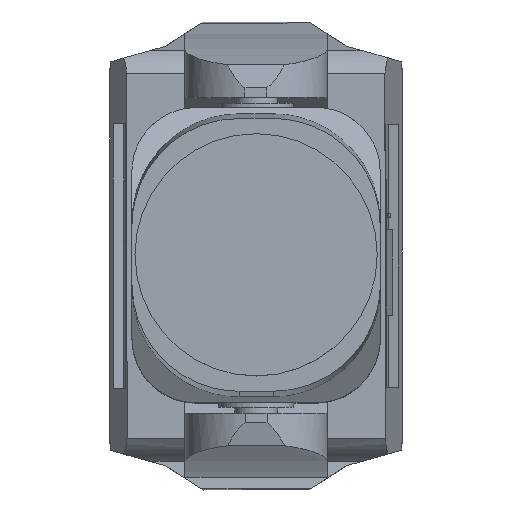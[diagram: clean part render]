
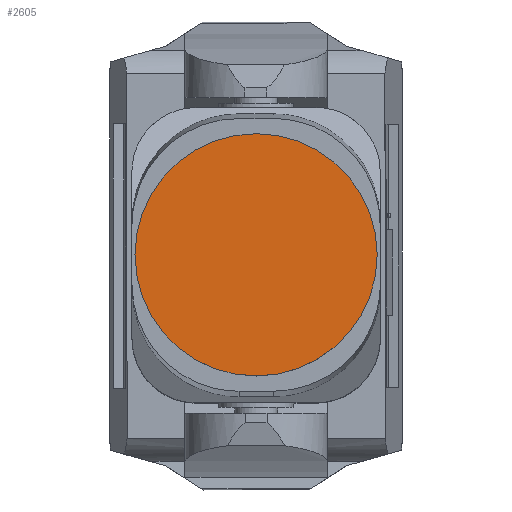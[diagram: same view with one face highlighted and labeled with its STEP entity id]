
A CAD part, top view. The second image highlights one B-rep face of the part: STEP entity #2605.
In plain terms, the highlighted planar face has unit normal (0, 0, 1).
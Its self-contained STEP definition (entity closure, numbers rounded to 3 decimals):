
#1255=ORIENTED_EDGE('',*,*,#1635,.T.);
#1635=EDGE_CURVE('',#1887,#1887,#1947,.T.);
#1887=VERTEX_POINT('',#4502);
#1947=CIRCLE('',#2903,113.175);
#2143=EDGE_LOOP('',(#1255));
#2347=FACE_BOUND('',#2143,.T.);
#2460=PLANE('',#2909);
#2605=ADVANCED_FACE('',(#2347),#2460,.T.);
#2903=AXIS2_PLACEMENT_3D('',#4501,#3649,#3650);
#2909=AXIS2_PLACEMENT_3D('',#4508,#3661,#3662);
#3649=DIRECTION('',(0.,0.,1.));
#3650=DIRECTION('',(0.,-1.,0.));
#3661=DIRECTION('',(0.,0.,1.));
#3662=DIRECTION('',(0.,-1.,0.));
#4501=CARTESIAN_POINT('',(0.,0.,661.795));
#4502=CARTESIAN_POINT('',(0.,-113.175,661.795));
#4508=CARTESIAN_POINT('',(130.,-126.662,661.795));
